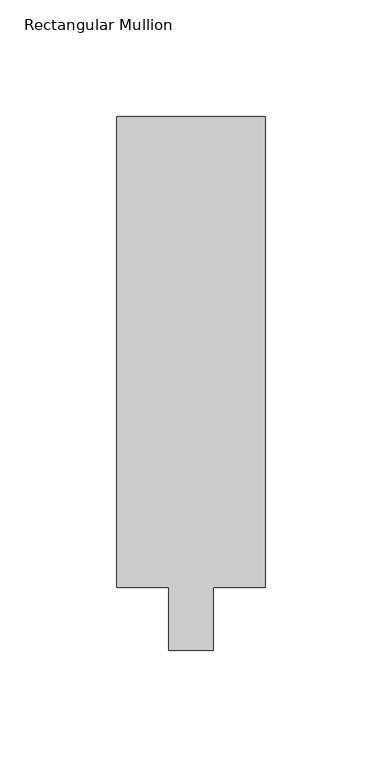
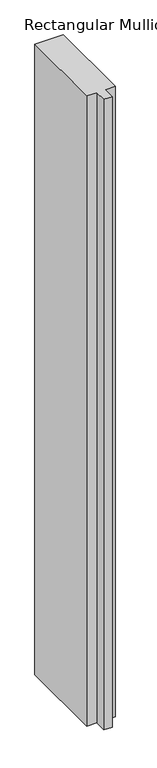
"""IFC4 building model written with IfcOpenShell, lengths in millimetres: member geometry."""

from ifc_helpers import new_model, si_unit, frame, origin, place, context, project, spatial, polyline, outline, extrude, source, transform, mapped, element, save


def rectangular_mullion_8bc0198a(model_context):
    return source(origin(), model_context, "Body", "SweptSolid", [
        extrude(outline(polyline([(0.0, 228.6), (0.0, 26.9875), (-22.225, 26.9875), (-22.225, 0.0), (-41.275, 0.0), (-41.275, 26.9875), (-63.5, 26.9875), (-63.5, 228.6), (0.0, 228.6)])), frame((0.0, 0.0, -1495.7777778), z_axis=(0.0, 0.0, 1.0), x_axis=(1.0, 0.0, 0.0)), (0.0, 0.0, 1.0), 1495.7777778),
    ])


if __name__ == "__main__":
    model = new_model("IFC4")
    model_context = context("Model", 3, world=origin())
    ifc_project = project(units=[si_unit("LENGTHUNIT", "METRE", prefix="MILLI")], contexts=[model_context])
    site = spatial("IfcSite", under=ifc_project)
    building = spatial("IfcBuilding", under=site)
    placement = place(None, origin())
    rectangular_mullion_shape = rectangular_mullion_8bc0198a(model_context)
    element("IfcMember", 1, ObjectType="Rectangular Mullion : 2 1/2\" x 8\" - Capless", at=placement, inside=building, context=model_context, shape_type="MappedRepresentation", body=[
        mapped(rectangular_mullion_shape, transform((0.0, 0.0, 0.0), x_axis=(1.0, 0.0, 0.0), y_axis=(0.0, 1.0, 0.0), z_axis=(0.0, 0.0, 1.0))),
    ])
    save(model, "model.ifc")
